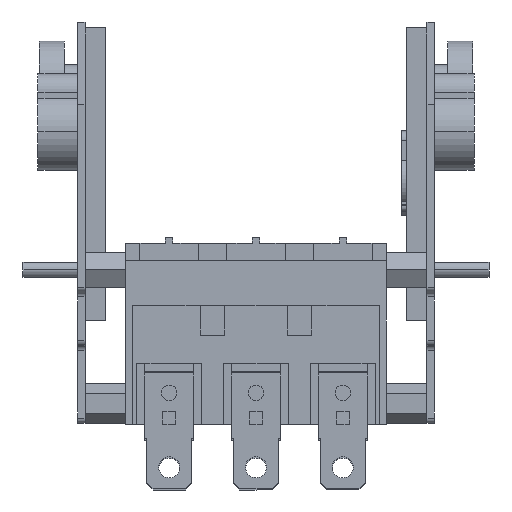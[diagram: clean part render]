
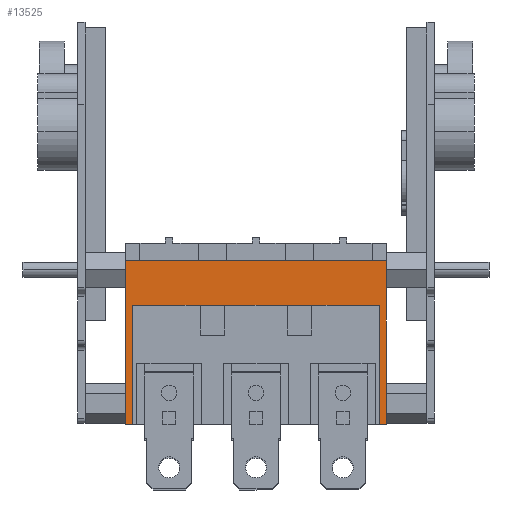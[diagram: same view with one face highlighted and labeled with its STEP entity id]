
A CAD part, front view. The second image highlights one B-rep face of the part: STEP entity #13525.
In plain terms, the highlighted planar face has unit normal (0, -1, 0).
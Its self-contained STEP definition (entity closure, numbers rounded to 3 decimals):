
#62 = EDGE_CURVE ( 'NONE', #4849, #11764, #9003, .T. ) ;
#158 = DIRECTION ( 'NONE',  ( 0., 1., 0. ) ) ;
#789 = VECTOR ( 'NONE', #20012, 1000. ) ;
#1120 = ORIENTED_EDGE ( 'NONE', *, *, #6642, .T. ) ;
#2822 = ORIENTED_EDGE ( 'NONE', *, *, #22459, .F. ) ;
#2850 = DIRECTION ( 'NONE',  ( 0., 0., 1. ) ) ;
#3194 = ORIENTED_EDGE ( 'NONE', *, *, #62, .T. ) ;
#3293 = VECTOR ( 'NONE', #15427, 1000. ) ;
#3356 = EDGE_CURVE ( 'NONE', #11764, #15841, #7908, .T. ) ;
#3691 = EDGE_CURVE ( 'NONE', #15841, #8906, #24182, .T. ) ;
#4502 = DIRECTION ( 'NONE',  ( -1., 0., 0. ) ) ;
#4849 = VERTEX_POINT ( 'NONE', #5637 ) ;
#5329 = AXIS2_PLACEMENT_3D ( 'NONE', #17136, #158, #4502 ) ;
#5637 = CARTESIAN_POINT ( 'NONE',  ( 52.5, -84.5, -9.3 ) ) ;
#6642 = EDGE_CURVE ( 'NONE', #8906, #15327, #11875, .T. ) ;
#7908 = LINE ( 'NONE', #23134, #27631 ) ;
#8661 = PLANE ( 'NONE',  #5329 ) ;
#8906 = VERTEX_POINT ( 'NONE', #17492 ) ;
#9003 = LINE ( 'NONE', #10671, #19339 ) ;
#9199 = VECTOR ( 'NONE', #2850, 1000. ) ;
#9312 = EDGE_CURVE ( 'NONE', #17424, #15327, #11006, .T. ) ;
#9549 = VECTOR ( 'NONE', #15680, 1000. ) ;
#10229 = VERTEX_POINT ( 'NONE', #10716 ) ;
#10592 = ORIENTED_EDGE ( 'NONE', *, *, #9312, .F. ) ;
#10671 = CARTESIAN_POINT ( 'NONE',  ( 52.5, -84.5, -9.3 ) ) ;
#10716 = CARTESIAN_POINT ( 'NONE',  ( 52.5, -84.5, -75.3 ) ) ;
#11006 = LINE ( 'NONE', #25062, #21990 ) ;
#11406 = CARTESIAN_POINT ( 'NONE',  ( -49.8, -84.5, -182.808 ) ) ;
#11764 = VERTEX_POINT ( 'NONE', #21432 ) ;
#11875 = LINE ( 'NONE', #11406, #789 ) ;
#13292 = CARTESIAN_POINT ( 'NONE',  ( 52.5, -84.5, -9.3 ) ) ;
#13525 = ADVANCED_FACE ( 'NONE', ( #15242 ), #8661, .F. ) ;
#13725 = CARTESIAN_POINT ( 'NONE',  ( -49.8, -84.5, -75.3 ) ) ;
#13824 = ORIENTED_EDGE ( 'NONE', *, *, #3356, .T. ) ;
#13836 = CARTESIAN_POINT ( 'NONE',  ( -49.8, -84.5, -27.3 ) ) ;
#14327 = EDGE_CURVE ( 'NONE', #25438, #10229, #17793, .T. ) ;
#14486 = DIRECTION ( 'NONE',  ( 0., 0., -1. ) ) ;
#14915 = DIRECTION ( 'NONE',  ( -1., 0., 0. ) ) ;
#15242 = FACE_OUTER_BOUND ( 'NONE', #21172, .T. ) ;
#15327 = VERTEX_POINT ( 'NONE', #13836 ) ;
#15427 = DIRECTION ( 'NONE',  ( 0., 0., -1. ) ) ;
#15680 = DIRECTION ( 'NONE',  ( 1., 0., 0. ) ) ;
#15841 = VERTEX_POINT ( 'NONE', #27680 ) ;
#17136 = CARTESIAN_POINT ( 'NONE',  ( 52.5, -84.5, -9.3 ) ) ;
#17206 = EDGE_CURVE ( 'NONE', #4849, #10229, #20389, .T. ) ;
#17424 = VERTEX_POINT ( 'NONE', #20923 ) ;
#17492 = CARTESIAN_POINT ( 'NONE',  ( -49.8, -84.5, -75.3 ) ) ;
#17793 = LINE ( 'NONE', #21645, #23410 ) ;
#18660 = ORIENTED_EDGE ( 'NONE', *, *, #3691, .T. ) ;
#18746 = CARTESIAN_POINT ( 'NONE',  ( 49.8, -84.5, -75.3 ) ) ;
#19002 = ORIENTED_EDGE ( 'NONE', *, *, #17206, .F. ) ;
#19339 = VECTOR ( 'NONE', #21314, 1000. ) ;
#19881 = LINE ( 'NONE', #22019, #9199 ) ;
#20012 = DIRECTION ( 'NONE',  ( 0., 0., 1. ) ) ;
#20389 = LINE ( 'NONE', #13292, #3293 ) ;
#20923 = CARTESIAN_POINT ( 'NONE',  ( 49.8, -84.5, -27.3 ) ) ;
#21172 = EDGE_LOOP ( 'NONE', ( #3194, #13824, #18660, #1120, #10592, #2822, #26371, #19002 ) ) ;
#21314 = DIRECTION ( 'NONE',  ( -1., 0., 0. ) ) ;
#21432 = CARTESIAN_POINT ( 'NONE',  ( -52.5, -84.5, -9.3 ) ) ;
#21645 = CARTESIAN_POINT ( 'NONE',  ( 52.5, -84.5, -75.3 ) ) ;
#21990 = VECTOR ( 'NONE', #14915, 1000. ) ;
#22019 = CARTESIAN_POINT ( 'NONE',  ( 49.8, -84.5, -182.808 ) ) ;
#22459 = EDGE_CURVE ( 'NONE', #25438, #17424, #19881, .T. ) ;
#23134 = CARTESIAN_POINT ( 'NONE',  ( -52.5, -84.5, -9.3 ) ) ;
#23410 = VECTOR ( 'NONE', #23638, 1000. ) ;
#23638 = DIRECTION ( 'NONE',  ( 1., 0., 0. ) ) ;
#24182 = LINE ( 'NONE', #13725, #9549 ) ;
#25062 = CARTESIAN_POINT ( 'NONE',  ( 52.5, -84.5, -27.3 ) ) ;
#25438 = VERTEX_POINT ( 'NONE', #18746 ) ;
#26371 = ORIENTED_EDGE ( 'NONE', *, *, #14327, .T. ) ;
#27631 = VECTOR ( 'NONE', #14486, 1000. ) ;
#27680 = CARTESIAN_POINT ( 'NONE',  ( -52.5, -84.5, -75.3 ) ) ;
